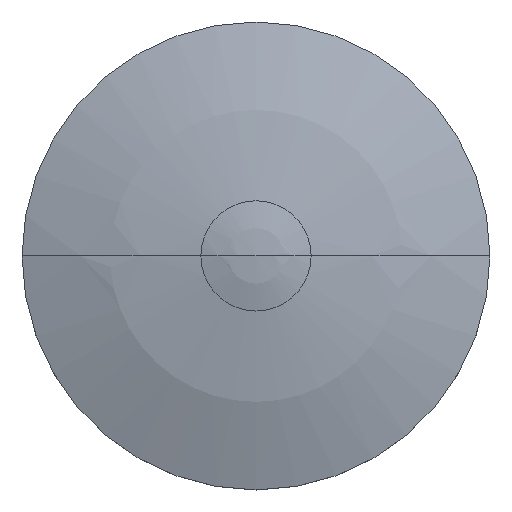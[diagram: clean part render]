
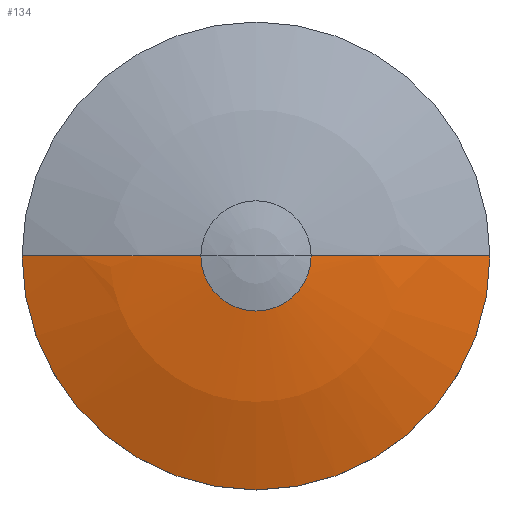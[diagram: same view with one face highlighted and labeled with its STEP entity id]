
A CAD part, top view. The second image highlights one B-rep face of the part: STEP entity #134.
In plain terms, the highlighted spherical face has radius 63.5 mm.
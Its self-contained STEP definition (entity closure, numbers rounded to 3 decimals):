
#134 = ADVANCED_FACE( '', ( #262 ), #263, .T. );
#262 = FACE_OUTER_BOUND( '', #391, .T. );
#263 = SPHERICAL_SURFACE( '', #392, 63.5 );
#391 = EDGE_LOOP( '', ( #866, #867, #868, #869, #870 ) );
#392 = AXIS2_PLACEMENT_3D( '', #871, #872, #873 );
#866 = ORIENTED_EDGE( '', *, *, #884, .T. );
#867 = ORIENTED_EDGE( '', *, *, #1030, .F. );
#868 = ORIENTED_EDGE( '', *, *, #887, .T. );
#869 = ORIENTED_EDGE( '', *, *, #892, .T. );
#870 = ORIENTED_EDGE( '', *, *, #1029, .T. );
#871 = CARTESIAN_POINT( '', ( 0., 0., 3.306 ) );
#872 = DIRECTION( '', ( 0., 0., 1. ) );
#873 = DIRECTION( '', ( 1., 0., 0. ) );
#884 = EDGE_CURVE( '', #1039, #1034, #1040, .T. );
#887 = EDGE_CURVE( '', #1032, #1043, #1045, .T. );
#892 = EDGE_CURVE( '', #1043, #1052, #1054, .T. );
#1029 = EDGE_CURVE( '', #1052, #1039, #1279, .T. );
#1030 = EDGE_CURVE( '', #1032, #1034, #1280, .T. );
#1032 = VERTEX_POINT( '', #1282 );
#1034 = VERTEX_POINT( '', #1284 );
#1039 = VERTEX_POINT( '', #1289 );
#1040 = CIRCLE( '', #1290, 63.5 );
#1043 = VERTEX_POINT( '', #1293 );
#1045 = CIRCLE( '', #1295, 63.5 );
#1052 = VERTEX_POINT( '', #1303 );
#1054 = CIRCLE( '', #1306, 22.5 );
#1279 = CIRCLE( '', #1665, 22.5 );
#1280 = CIRCLE( '', #1666, 5.301 );
#1282 = CARTESIAN_POINT( '', ( -5.301, 0., 66.585 ) );
#1284 = CARTESIAN_POINT( '', ( 5.301, 0., 66.585 ) );
#1289 = CARTESIAN_POINT( '', ( 22.5, 0., 62.687 ) );
#1290 = AXIS2_PLACEMENT_3D( '', #1679, #1680, #1681 );
#1293 = CARTESIAN_POINT( '', ( -22.5, 0., 62.687 ) );
#1295 = AXIS2_PLACEMENT_3D( '', #1688, #1689, #1690 );
#1303 = CARTESIAN_POINT( '', ( 0., -22.5, 62.687 ) );
#1306 = AXIS2_PLACEMENT_3D( '', #1699, #1700, #1701 );
#1665 = AXIS2_PLACEMENT_3D( '', #1962, #1963, #1964 );
#1666 = AXIS2_PLACEMENT_3D( '', #1965, #1966, #1967 );
#1679 = CARTESIAN_POINT( '', ( 0., 0., 3.306 ) );
#1680 = DIRECTION( '', ( 0., -1., 0. ) );
#1681 = DIRECTION( '', ( 0., 0., 1. ) );
#1688 = CARTESIAN_POINT( '', ( 0., 0., 3.306 ) );
#1689 = DIRECTION( '', ( 0., -1., 0. ) );
#1690 = DIRECTION( '', ( 0., 0., 1. ) );
#1699 = CARTESIAN_POINT( '', ( 0., 0., 62.687 ) );
#1700 = DIRECTION( '', ( 0., 0., 1. ) );
#1701 = DIRECTION( '', ( 0., 1., 0. ) );
#1962 = CARTESIAN_POINT( '', ( 0., 0., 62.687 ) );
#1963 = DIRECTION( '', ( 0., 0., 1. ) );
#1964 = DIRECTION( '', ( 0., 1., 0. ) );
#1965 = CARTESIAN_POINT( '', ( 0., 0., 66.585 ) );
#1966 = DIRECTION( '', ( 0., 0., 1. ) );
#1967 = DIRECTION( '', ( 0., 1., 0. ) );
